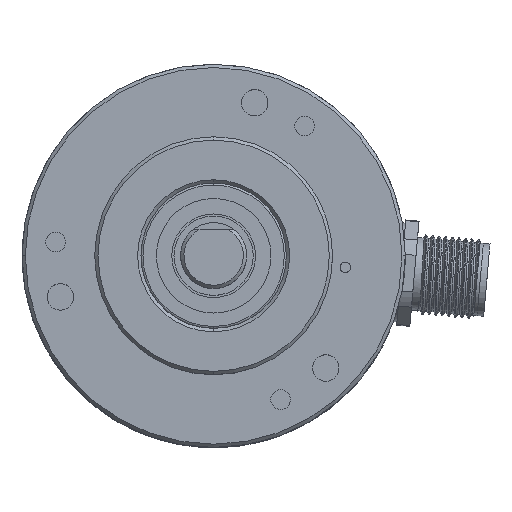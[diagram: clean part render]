
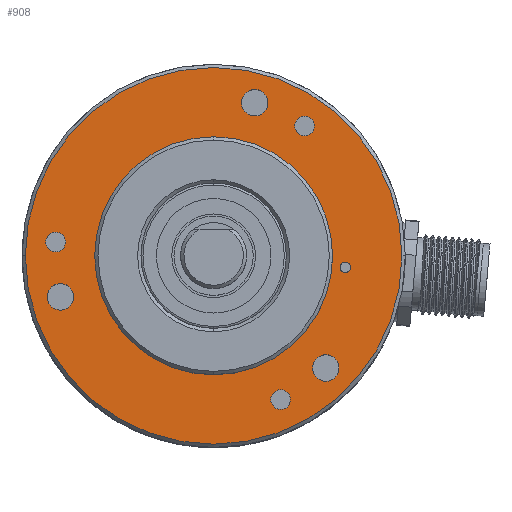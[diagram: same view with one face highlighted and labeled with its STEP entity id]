
A CAD part, top view. The second image highlights one B-rep face of the part: STEP entity #908.
In plain terms, the highlighted planar face has unit normal (0, 0, 1).
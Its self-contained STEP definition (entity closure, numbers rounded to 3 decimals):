
#908=ADVANCED_FACE('',(#1238,#1239,#1240,#1241,#1242,#1243,#1244,#1245,
#1246),#1127,.T.);
#1127=PLANE('',#5277);
#1238=FACE_BOUND('',#1471,.T.);
#1239=FACE_BOUND('',#1472,.T.);
#1240=FACE_BOUND('',#1473,.T.);
#1241=FACE_BOUND('',#1474,.T.);
#1242=FACE_BOUND('',#1475,.T.);
#1243=FACE_BOUND('',#1476,.T.);
#1244=FACE_BOUND('',#1477,.T.);
#1245=FACE_BOUND('',#1478,.T.);
#1246=FACE_BOUND('',#1479,.T.);
#1471=EDGE_LOOP('',(#2438,#2439));
#1472=EDGE_LOOP('',(#2440));
#1473=EDGE_LOOP('',(#2441));
#1474=EDGE_LOOP('',(#2442));
#1475=EDGE_LOOP('',(#2443));
#1476=EDGE_LOOP('',(#2444));
#1477=EDGE_LOOP('',(#2445));
#1478=EDGE_LOOP('',(#2446,#2447));
#1479=EDGE_LOOP('',(#2448,#2449));
#2438=ORIENTED_EDGE('',*,*,#4148,.T.);
#2439=ORIENTED_EDGE('',*,*,#4149,.T.);
#2440=ORIENTED_EDGE('',*,*,#4150,.T.);
#2441=ORIENTED_EDGE('',*,*,#4151,.T.);
#2442=ORIENTED_EDGE('',*,*,#4152,.T.);
#2443=ORIENTED_EDGE('',*,*,#4153,.T.);
#2444=ORIENTED_EDGE('',*,*,#4154,.T.);
#2445=ORIENTED_EDGE('',*,*,#4155,.T.);
#2446=ORIENTED_EDGE('',*,*,#4156,.F.);
#2447=ORIENTED_EDGE('',*,*,#4157,.F.);
#2448=ORIENTED_EDGE('',*,*,#4158,.F.);
#2449=ORIENTED_EDGE('',*,*,#4159,.F.);
#3589=VERTEX_POINT('',#9922);
#3590=VERTEX_POINT('',#9923);
#3591=VERTEX_POINT('',#9926);
#3592=VERTEX_POINT('',#9928);
#3593=VERTEX_POINT('',#9930);
#3594=VERTEX_POINT('',#9932);
#3595=VERTEX_POINT('',#9934);
#3596=VERTEX_POINT('',#9936);
#3597=VERTEX_POINT('',#9938);
#3598=VERTEX_POINT('',#9939);
#3599=VERTEX_POINT('',#9942);
#3600=VERTEX_POINT('',#9943);
#4148=EDGE_CURVE('',#3589,#3590,#4764,.T.);
#4149=EDGE_CURVE('',#3590,#3589,#4765,.T.);
#4150=EDGE_CURVE('',#3591,#3591,#4766,.T.);
#4151=EDGE_CURVE('',#3592,#3592,#4767,.T.);
#4152=EDGE_CURVE('',#3593,#3593,#4768,.T.);
#4153=EDGE_CURVE('',#3594,#3594,#4769,.T.);
#4154=EDGE_CURVE('',#3595,#3595,#4770,.T.);
#4155=EDGE_CURVE('',#3596,#3596,#4771,.T.);
#4156=EDGE_CURVE('',#3597,#3598,#4772,.T.);
#4157=EDGE_CURVE('',#3598,#3597,#4773,.T.);
#4158=EDGE_CURVE('',#3599,#3600,#4774,.T.);
#4159=EDGE_CURVE('',#3600,#3599,#4775,.T.);
#4764=CIRCLE('',#5265,28.5);
#4765=CIRCLE('',#5266,28.5);
#4766=CIRCLE('',#5267,2.);
#4767=CIRCLE('',#5268,1.5);
#4768=CIRCLE('',#5269,2.);
#4769=CIRCLE('',#5270,1.5);
#4770=CIRCLE('',#5271,2.);
#4771=CIRCLE('',#5272,1.5);
#4772=CIRCLE('',#5273,0.8);
#4773=CIRCLE('',#5274,0.8);
#4774=CIRCLE('',#5275,18.);
#4775=CIRCLE('',#5276,18.);
#5265=AXIS2_PLACEMENT_3D('',#9921,#6223,#6224);
#5266=AXIS2_PLACEMENT_3D('',#9924,#6225,#6226);
#5267=AXIS2_PLACEMENT_3D('',#9925,#6227,#6228);
#5268=AXIS2_PLACEMENT_3D('',#9927,#6229,#6230);
#5269=AXIS2_PLACEMENT_3D('',#9929,#6231,#6232);
#5270=AXIS2_PLACEMENT_3D('',#9931,#6233,#6234);
#5271=AXIS2_PLACEMENT_3D('',#9933,#6235,#6236);
#5272=AXIS2_PLACEMENT_3D('',#9935,#6237,#6238);
#5273=AXIS2_PLACEMENT_3D('',#9937,#6239,#6240);
#5274=AXIS2_PLACEMENT_3D('',#9940,#6241,#6242);
#5275=AXIS2_PLACEMENT_3D('',#9941,#6243,#6244);
#5276=AXIS2_PLACEMENT_3D('',#9944,#6245,#6246);
#5277=AXIS2_PLACEMENT_3D('',#9945,#6247,#6248);
#6223=DIRECTION('',(0.,0.,1.));
#6224=DIRECTION('',(1.,0.,0.));
#6225=DIRECTION('',(0.,0.,1.));
#6226=DIRECTION('',(1.,0.,0.));
#6227=DIRECTION('',(0.,0.,-1.));
#6228=DIRECTION('',(1.,0.,0.));
#6229=DIRECTION('',(0.,0.,-1.));
#6230=DIRECTION('',(1.,0.,0.));
#6231=DIRECTION('',(0.,0.,-1.));
#6232=DIRECTION('',(-0.5,-0.866,0.));
#6233=DIRECTION('',(0.,0.,-1.));
#6234=DIRECTION('',(-0.5,-0.866,0.));
#6235=DIRECTION('',(0.,0.,-1.));
#6236=DIRECTION('',(-0.5,0.866,0.));
#6237=DIRECTION('',(0.,0.,-1.));
#6238=DIRECTION('',(-0.5,0.866,0.));
#6239=DIRECTION('',(0.,0.,1.));
#6240=DIRECTION('',(0.,-1.,0.));
#6241=DIRECTION('',(0.,0.,1.));
#6242=DIRECTION('',(0.,1.,0.));
#6243=DIRECTION('',(0.,0.,1.));
#6244=DIRECTION('',(1.,0.,0.));
#6245=DIRECTION('',(0.,0.,1.));
#6246=DIRECTION('',(1.,0.,0.));
#6247=DIRECTION('',(0.,0.,1.));
#6248=DIRECTION('',(1.,0.,0.));
#9921=CARTESIAN_POINT('',(14.085,25.847,-14.));
#9922=CARTESIAN_POINT('',(42.585,25.847,-14.));
#9923=CARTESIAN_POINT('',(-14.415,25.847,-14.));
#9924=CARTESIAN_POINT('',(14.085,25.847,-14.));
#9925=CARTESIAN_POINT('',(31.055,8.877,-14.));
#9926=CARTESIAN_POINT('',(33.055,8.877,-14.));
#9927=CARTESIAN_POINT('',(24.227,4.096,-14.));
#9928=CARTESIAN_POINT('',(25.727,4.096,-14.));
#9929=CARTESIAN_POINT('',(-9.098,19.636,-14.));
#9930=CARTESIAN_POINT('',(-10.098,17.904,-14.));
#9931=CARTESIAN_POINT('',(-9.824,27.939,-14.));
#9932=CARTESIAN_POINT('',(-10.574,26.64,-14.));
#9933=CARTESIAN_POINT('',(20.296,49.029,-14.));
#9934=CARTESIAN_POINT('',(19.296,50.762,-14.));
#9935=CARTESIAN_POINT('',(27.85,45.507,-14.));
#9936=CARTESIAN_POINT('',(27.1,46.806,-14.));
#9937=CARTESIAN_POINT('',(34.008,24.104,-14.));
#9938=CARTESIAN_POINT('',(34.008,23.304,-14.));
#9939=CARTESIAN_POINT('',(34.008,24.904,-14.));
#9940=CARTESIAN_POINT('',(34.008,24.104,-14.));
#9941=CARTESIAN_POINT('',(14.085,25.847,-14.));
#9942=CARTESIAN_POINT('',(14.085,7.847,-14.));
#9943=CARTESIAN_POINT('',(14.085,43.847,-14.));
#9944=CARTESIAN_POINT('',(14.085,25.847,-14.));
#9945=CARTESIAN_POINT('',(14.085,25.847,-14.));
